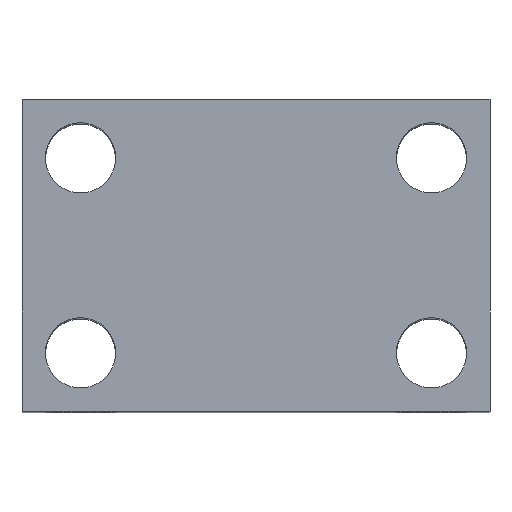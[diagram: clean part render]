
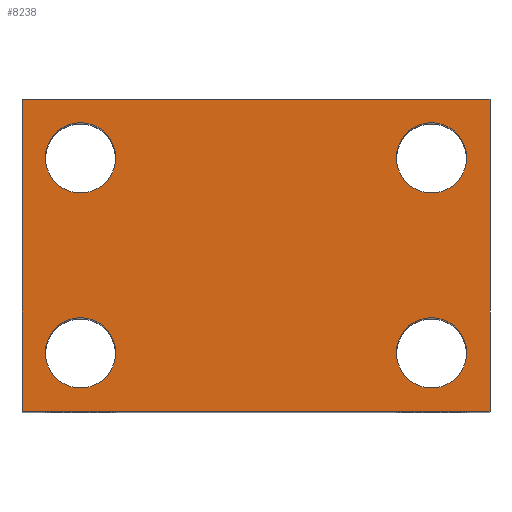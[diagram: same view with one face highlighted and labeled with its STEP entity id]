
A CAD part, top view. The second image highlights one B-rep face of the part: STEP entity #8238.
In plain terms, the highlighted planar face has unit normal (0, 0, 1).
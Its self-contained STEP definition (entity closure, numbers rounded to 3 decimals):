
#43 = EDGE_CURVE ( 'NONE', #8421, #5082, #12714, .T. ) ;
#348 = VERTEX_POINT ( 'NONE', #7496 ) ;
#360 = CARTESIAN_POINT ( 'NONE',  ( -30., 40., 40. ) ) ;
#776 = AXIS2_PLACEMENT_3D ( 'NONE', #8533, #9942, #1531 ) ;
#803 = CARTESIAN_POINT ( 'NONE',  ( 18., 7.5, 40. ) ) ;
#1046 = CARTESIAN_POINT ( 'NONE',  ( 27., 32.5, 40. ) ) ;
#1117 = CARTESIAN_POINT ( 'NONE',  ( -30., 40., 40. ) ) ;
#1210 = EDGE_CURVE ( 'NONE', #1234, #11683, #2576, .T. ) ;
#1234 = VERTEX_POINT ( 'NONE', #1387 ) ;
#1287 = ORIENTED_EDGE ( 'NONE', *, *, #3988, .T. ) ;
#1387 = CARTESIAN_POINT ( 'NONE',  ( -27., 7.5, 40. ) ) ;
#1408 = DIRECTION ( 'NONE',  ( -1., 0., 0. ) ) ;
#1437 = DIRECTION ( 'NONE',  ( 0., 0., -1. ) ) ;
#1451 = CARTESIAN_POINT ( 'NONE',  ( -22.5, 7.5, 40. ) ) ;
#1471 = EDGE_CURVE ( 'NONE', #13365, #12457, #7851, .T. ) ;
#1531 = DIRECTION ( 'NONE',  ( -1., 0., 0. ) ) ;
#1719 = CIRCLE ( 'NONE', #5293, 4.5 ) ;
#2014 = AXIS2_PLACEMENT_3D ( 'NONE', #14718, #6458, #16066 ) ;
#2234 = FACE_BOUND ( 'NONE', #2746, .T. ) ;
#2292 = CARTESIAN_POINT ( 'NONE',  ( 18., 32.5, 40. ) ) ;
#2298 = VECTOR ( 'NONE', #7521, 1000. ) ;
#2364 = CARTESIAN_POINT ( 'NONE',  ( -22.5, 32.5, 40. ) ) ;
#2400 = ORIENTED_EDGE ( 'NONE', *, *, #12762, .T. ) ;
#2576 = CIRCLE ( 'NONE', #15920, 4.5 ) ;
#2623 = AXIS2_PLACEMENT_3D ( 'NONE', #11811, #3389, #13178 ) ;
#2746 = EDGE_LOOP ( 'NONE', ( #9928, #3151 ) ) ;
#2853 = ORIENTED_EDGE ( 'NONE', *, *, #5048, .T. ) ;
#2915 = EDGE_CURVE ( 'NONE', #4237, #8204, #13459, .T. ) ;
#3113 = DIRECTION ( 'NONE',  ( 1., 0., 0. ) ) ;
#3129 = DIRECTION ( 'NONE',  ( 0., -1., 0. ) ) ;
#3151 = ORIENTED_EDGE ( 'NONE', *, *, #15570, .T. ) ;
#3389 = DIRECTION ( 'NONE',  ( 0., 0., -1. ) ) ;
#3496 = CARTESIAN_POINT ( 'NONE',  ( -18., 32.5, 40. ) ) ;
#3783 = DIRECTION ( 'NONE',  ( -1., 0., 0. ) ) ;
#3988 = EDGE_CURVE ( 'NONE', #11683, #1234, #15284, .T. ) ;
#4049 = EDGE_LOOP ( 'NONE', ( #17883, #1287 ) ) ;
#4170 = EDGE_CURVE ( 'NONE', #5082, #8421, #9978, .T. ) ;
#4237 = VERTEX_POINT ( 'NONE', #1117 ) ;
#4401 = ORIENTED_EDGE ( 'NONE', *, *, #1471, .T. ) ;
#4535 = VERTEX_POINT ( 'NONE', #2292 ) ;
#4793 = VECTOR ( 'NONE', #11602, 1000. ) ;
#5048 = EDGE_CURVE ( 'NONE', #12539, #348, #17848, .T. ) ;
#5082 = VERTEX_POINT ( 'NONE', #5952 ) ;
#5172 = AXIS2_PLACEMENT_3D ( 'NONE', #15443, #17877, #5694 ) ;
#5293 = AXIS2_PLACEMENT_3D ( 'NONE', #15526, #7301, #16894 ) ;
#5339 = CARTESIAN_POINT ( 'NONE',  ( 22.5, 32.5, 40. ) ) ;
#5390 = ORIENTED_EDGE ( 'NONE', *, *, #4170, .T. ) ;
#5694 = DIRECTION ( 'NONE',  ( -1., 0., 0. ) ) ;
#5727 = PLANE ( 'NONE',  #776 ) ;
#5952 = CARTESIAN_POINT ( 'NONE',  ( -27., 32.5, 40. ) ) ;
#6015 = FACE_BOUND ( 'NONE', #4049, .T. ) ;
#6458 = DIRECTION ( 'NONE',  ( 0., 0., -1. ) ) ;
#6725 = DIRECTION ( 'NONE',  ( -1., 0., 0. ) ) ;
#6821 = AXIS2_PLACEMENT_3D ( 'NONE', #5339, #14972, #6725 ) ;
#6885 = VECTOR ( 'NONE', #3113, 1000. ) ;
#7301 = DIRECTION ( 'NONE',  ( 0., 0., -1. ) ) ;
#7496 = CARTESIAN_POINT ( 'NONE',  ( 30., 0., 40. ) ) ;
#7521 = DIRECTION ( 'NONE',  ( 1., 0., 0. ) ) ;
#7851 = CIRCLE ( 'NONE', #10127, 4.5 ) ;
#8009 = LINE ( 'NONE', #360, #4793 ) ;
#8204 = VERTEX_POINT ( 'NONE', #12687 ) ;
#8238 = ADVANCED_FACE ( 'NONE', ( #9694, #6015, #13406, #2234, #16501 ), #5727, .F. ) ;
#8421 = VERTEX_POINT ( 'NONE', #3496 ) ;
#8533 = CARTESIAN_POINT ( 'NONE',  ( -30., 40., 40. ) ) ;
#9149 = ORIENTED_EDGE ( 'NONE', *, *, #2915, .F. ) ;
#9684 = CARTESIAN_POINT ( 'NONE',  ( -18., 7.5, 40. ) ) ;
#9694 = FACE_BOUND ( 'NONE', #11523, .T. ) ;
#9912 = VERTEX_POINT ( 'NONE', #1046 ) ;
#9928 = ORIENTED_EDGE ( 'NONE', *, *, #10769, .T. ) ;
#9942 = DIRECTION ( 'NONE',  ( 0., 0., -1. ) ) ;
#9978 = CIRCLE ( 'NONE', #16524, 4.5 ) ;
#10127 = AXIS2_PLACEMENT_3D ( 'NONE', #10777, #11286, #11089 ) ;
#10769 = EDGE_CURVE ( 'NONE', #4535, #9912, #1719, .T. ) ;
#10777 = CARTESIAN_POINT ( 'NONE',  ( 22.5, 7.5, 40. ) ) ;
#10860 = LINE ( 'NONE', #12862, #17648 ) ;
#10864 = CARTESIAN_POINT ( 'NONE',  ( -30., 0., 40. ) ) ;
#11089 = DIRECTION ( 'NONE',  ( -1., 0., 0. ) ) ;
#11286 = DIRECTION ( 'NONE',  ( 0., 0., -1. ) ) ;
#11523 = EDGE_LOOP ( 'NONE', ( #5390, #16123 ) ) ;
#11602 = DIRECTION ( 'NONE',  ( 0., -1., 0. ) ) ;
#11683 = VERTEX_POINT ( 'NONE', #9684 ) ;
#11769 = CARTESIAN_POINT ( 'NONE',  ( -30., 40., 40. ) ) ;
#11811 = CARTESIAN_POINT ( 'NONE',  ( -22.5, 7.5, 40. ) ) ;
#12196 = DIRECTION ( 'NONE',  ( 0., 0., -1. ) ) ;
#12239 = EDGE_CURVE ( 'NONE', #4237, #12539, #8009, .T. ) ;
#12457 = VERTEX_POINT ( 'NONE', #803 ) ;
#12539 = VERTEX_POINT ( 'NONE', #10864 ) ;
#12687 = CARTESIAN_POINT ( 'NONE',  ( 30., 40., 40. ) ) ;
#12714 = CIRCLE ( 'NONE', #5172, 4.5 ) ;
#12762 = EDGE_CURVE ( 'NONE', #12457, #13365, #14698, .T. ) ;
#12828 = CIRCLE ( 'NONE', #6821, 4.5 ) ;
#12862 = CARTESIAN_POINT ( 'NONE',  ( 30., 40., 40. ) ) ;
#12888 = CARTESIAN_POINT ( 'NONE',  ( 27., 7.5, 40. ) ) ;
#12907 = CARTESIAN_POINT ( 'NONE',  ( -30., 0., 40. ) ) ;
#13174 = ORIENTED_EDGE ( 'NONE', *, *, #12239, .T. ) ;
#13178 = DIRECTION ( 'NONE',  ( -1., 0., 0. ) ) ;
#13365 = VERTEX_POINT ( 'NONE', #12888 ) ;
#13406 = FACE_BOUND ( 'NONE', #15891, .T. ) ;
#13459 = LINE ( 'NONE', #11769, #2298 ) ;
#14009 = ORIENTED_EDGE ( 'NONE', *, *, #14575, .F. ) ;
#14426 = EDGE_LOOP ( 'NONE', ( #2853, #14009, #9149, #13174 ) ) ;
#14575 = EDGE_CURVE ( 'NONE', #8204, #348, #10860, .T. ) ;
#14698 = CIRCLE ( 'NONE', #2014, 4.5 ) ;
#14718 = CARTESIAN_POINT ( 'NONE',  ( 22.5, 7.5, 40. ) ) ;
#14972 = DIRECTION ( 'NONE',  ( 0., 0., -1. ) ) ;
#15284 = CIRCLE ( 'NONE', #2623, 4.5 ) ;
#15443 = CARTESIAN_POINT ( 'NONE',  ( -22.5, 32.5, 40. ) ) ;
#15526 = CARTESIAN_POINT ( 'NONE',  ( 22.5, 32.5, 40. ) ) ;
#15570 = EDGE_CURVE ( 'NONE', #9912, #4535, #12828, .T. ) ;
#15891 = EDGE_LOOP ( 'NONE', ( #2400, #4401 ) ) ;
#15920 = AXIS2_PLACEMENT_3D ( 'NONE', #1451, #1437, #1408 ) ;
#16066 = DIRECTION ( 'NONE',  ( -1., 0., 0. ) ) ;
#16123 = ORIENTED_EDGE ( 'NONE', *, *, #43, .T. ) ;
#16501 = FACE_OUTER_BOUND ( 'NONE', #14426, .T. ) ;
#16524 = AXIS2_PLACEMENT_3D ( 'NONE', #2364, #12196, #3783 ) ;
#16894 = DIRECTION ( 'NONE',  ( -1., 0., 0. ) ) ;
#17648 = VECTOR ( 'NONE', #3129, 1000. ) ;
#17848 = LINE ( 'NONE', #12907, #6885 ) ;
#17877 = DIRECTION ( 'NONE',  ( 0., 0., -1. ) ) ;
#17883 = ORIENTED_EDGE ( 'NONE', *, *, #1210, .T. ) ;
